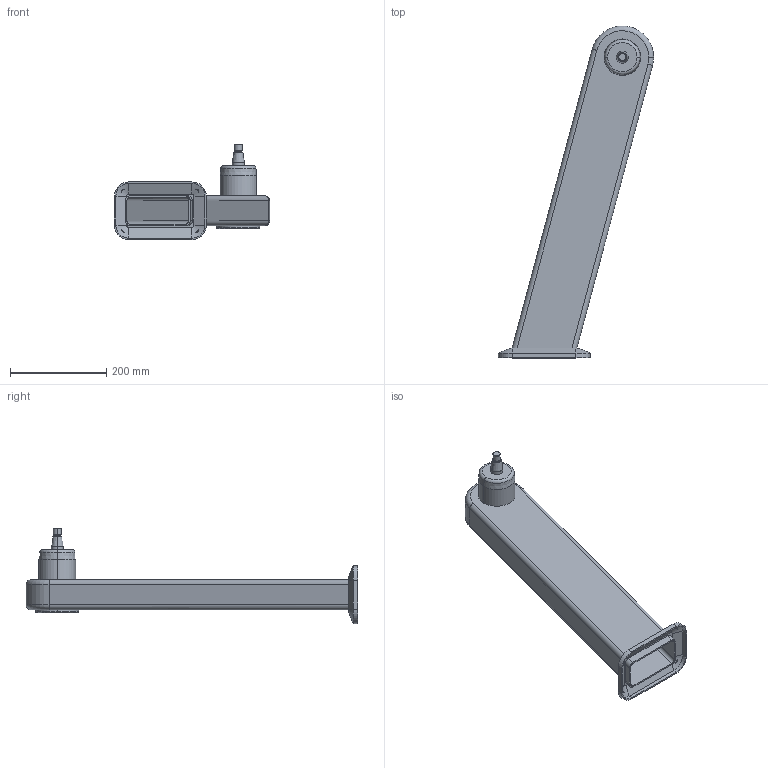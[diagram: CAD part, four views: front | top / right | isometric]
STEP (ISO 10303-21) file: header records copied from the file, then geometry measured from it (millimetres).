
FILE_DESCRIPTION (( 'STEP AP214' ), '1' );
FILE_NAME ('WP710_H625_+15.STEP', '2014-06-27T06:59:47', ( '' ), ( '' ), 'SwSTEP 2.0', 'SolidWorks 2014', '' );
FILE_SCHEMA (( 'AUTOMOTIVE_DESIGN' ));
Length unit declared in the file: millimetre
Products named in the file (1): WP710_H625_+15
Bounding box: 322.61 x 689.93 x 198 mm (x, y, z)
Volume: 1178890.4 mm3; surface area: 571087.9 mm2
Topology: 1 solids, 1 shells, 114 faces, 256 edges, 156 vertices
Faces by surface type: cylinder 42, plane 40, cone 20, torus 12
Entity records: 3285 total; most frequent: CARTESIAN_POINT 680, DIRECTION 570, ORIENTED_EDGE 512, EDGE_CURVE 256, AXIS2_PLACEMENT_3D 221, VERTEX_POINT 156, EDGE_LOOP 128, VECTOR 128
